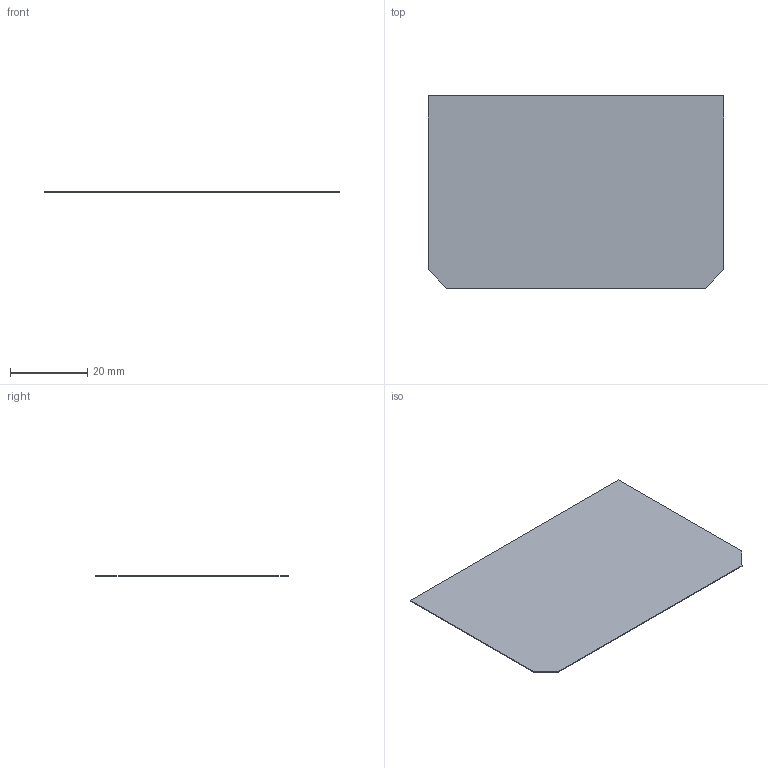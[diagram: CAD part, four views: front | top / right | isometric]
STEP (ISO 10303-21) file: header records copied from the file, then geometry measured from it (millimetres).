
FILE_DESCRIPTION(('Open CASCADE Model'),'2;1');
FILE_NAME('Open CASCADE Shape Model','2026-10-16T19:06:19',('Author'),( 'Open CASCADE'),'Open CASCADE STEP processor 7.9','Open CASCADE 7.9' ,'Unknown');
FILE_SCHEMA(('AUTOMOTIVE_DESIGN { 1 0 10303 214 1 1 1 1 }'));
Length unit declared in the file: millimetre
Products named in the file (2): Shield_Lid_76x49_3_Chamfer; metal
Assembly tree (1 placements, depth 2):
  Shield_Lid_76x49_3_Chamfer
    metal
Bounding box: 76.4 x 49.7 x 0.2 mm (x, y, z)
Volume: 755 mm3; surface area: 7599 mm2
Topology: 1 solids, 1 shells, 8 faces, 18 edges, 12 vertices
Faces by surface type: plane 8
Entity records: 493 total; most frequent: CARTESIAN_POINT 76, DIRECTION 74, LINE 54, VECTOR 54, ORIENTED_EDGE 36, PCURVE 36, DEFINITIONAL_REPRESENTATION 36, EDGE_CURVE 18
